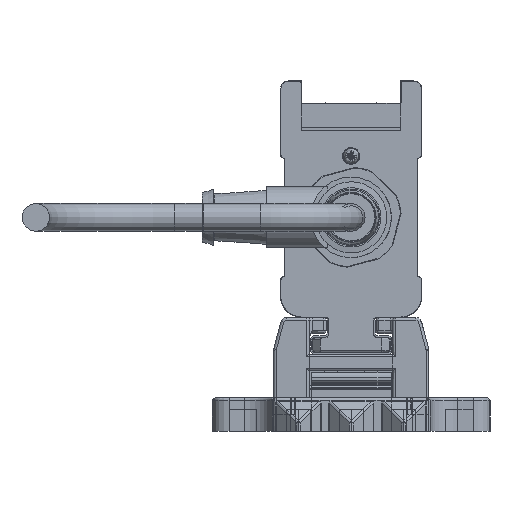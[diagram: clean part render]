
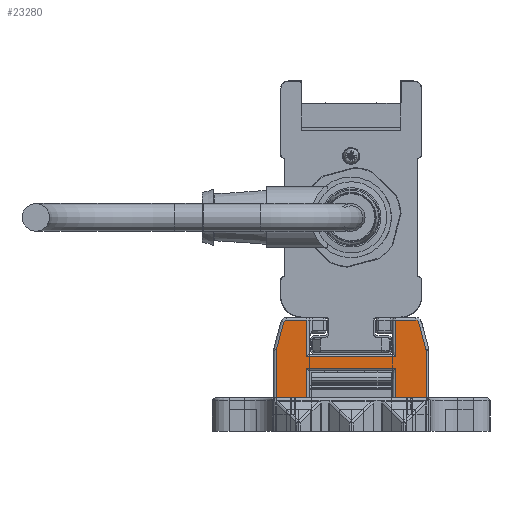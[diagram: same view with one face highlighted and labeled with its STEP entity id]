
A CAD part, left-side view. The second image highlights one B-rep face of the part: STEP entity #23280.
In plain terms, the highlighted planar face has unit normal (-1, 0, 0).
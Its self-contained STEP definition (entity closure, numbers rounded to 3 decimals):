
#23280=ADVANCED_FACE('', (#23290), #23300, .T.);
#141290=AXIS2_PLACEMENT_3D('Ax2Pl3d', #141300, #141310, #141320);
#141530=AXIS2_PLACEMENT_3D('Ax2Pl3d', #141540, #141550, #141560);
#146410=AXIS2_PLACEMENT_3D('Ax2Pl3d', #146420, #146430, #146440);
#151490=AXIS2_PLACEMENT_3D('Ax2Pl3d', #151500, #151510, #151520);
#161170=AXIS2_PLACEMENT_3D('Ax2Pl3d', #161180, #161190, #161200);
#583560=CARTESIAN_POINT('', (-747.669,-3366.345,
331.37));
#141300=CARTESIAN_POINT('HicPkt', (-747.669,-3365.379,
331.111));
#583570=CARTESIAN_POINT('', (-747.669,-3366.379,331.111)
);
#583580=CARTESIAN_POINT('', (-747.669,-3365.037,
336.255));
#583600=CARTESIAN_POINT('', (-747.669,-3365.037,
336.255));
#583630=CARTESIAN_POINT('', (-747.669,-3364.554,
336.625));
#141540=CARTESIAN_POINT('HicPkt', (-747.669,-3364.554,
336.125));
#583850=CARTESIAN_POINT('', (-747.669,-3366.379,322.625)
);
#583860=CARTESIAN_POINT('', (-747.669,-3360.881,322.625)
);
#583870=CARTESIAN_POINT('', (-747.669,-3360.881,322.625)
);
#583950=CARTESIAN_POINT('', (-747.669,-3344.881,322.625)
);
#583960=CARTESIAN_POINT('', (-747.669,-3339.383,322.625)
);
#583970=CARTESIAN_POINT('', (-747.669,-3339.383,322.625)
);
#146420=CARTESIAN_POINT('HicPkt', (-747.669,-3341.209,
336.125));
#586440=CARTESIAN_POINT('', (-747.669,-3340.726,
336.255));
#586450=CARTESIAN_POINT('', (-747.669,-3341.209,336.625)
);
#586460=CARTESIAN_POINT('', (-747.669,-3360.881,
330.025));
#586470=CARTESIAN_POINT('', (-747.669,-3344.881,
330.025));
#586480=CARTESIAN_POINT('', (-747.669,-3360.881,
330.025));
#586640=CARTESIAN_POINT('', (-747.669,-3360.881,
328.005));
#586650=CARTESIAN_POINT('', (-747.669,-3344.881,
328.005));
#586660=CARTESIAN_POINT('', (-747.669,-3344.881,
328.005));
#586670=CARTESIAN_POINT('', (-747.669,-3360.881,
328.005));
#586690=CARTESIAN_POINT('', (-747.669,-3344.881,322.625)
);
#586700=CARTESIAN_POINT('', (-747.669,-3344.881,
330.025));
#586710=CARTESIAN_POINT('', (-747.669,-3344.881,
336.625));
#587560=CARTESIAN_POINT('', (-747.669,-3344.881,
336.625));
#587570=CARTESIAN_POINT('', (-747.669,-3340.726,
336.255));
#587580=CARTESIAN_POINT('', (-747.669,-3339.417,
331.37));
#587770=CARTESIAN_POINT('', (-747.669,-3339.383,
331.111));
#587780=CARTESIAN_POINT('', (-747.669,-3339.383,
331.111));
#151500=CARTESIAN_POINT('HicPkt', (-747.669,-3340.383,
331.111));
#588590=CARTESIAN_POINT('', (-747.669,-3366.379,331.111)
);
#161180=CARTESIAN_POINT('HicPkt', (-747.669,-3364.554,
336.625));
#590390=CARTESIAN_POINT('', (-747.669,-3360.881,
336.625));
#590400=CARTESIAN_POINT('', (-747.669,-3360.881,
336.625));
#590410=CARTESIAN_POINT('', (-747.669,-3360.881,
336.625));
#675070=CIRCLE('Circle', #141290, 1.);
#675110=CIRCLE('Circle', #141530, 0.5);
#675690=CIRCLE('Circle', #146410, 0.5);
#676220=CIRCLE('Circle', #151490, 1.);
#141310=DIRECTION('Axis', (-1.,0.,
0.));
#141320=DIRECTION('RefDirection', (0.,
0.,-1.));
#942570=DIRECTION('', (0.,0.259,
0.966));
#141550=DIRECTION('Axis', (-1.,0.,
0.));
#141560=DIRECTION('RefDirection', (0.,
0.,-1.));
#942680=DIRECTION('', (0.,1.,0.));
#942720=DIRECTION('', (0.,1.,0.));
#146430=DIRECTION('Axis', (1.,0.,
0.));
#146440=DIRECTION('RefDirection', (0.,
0.,-1.));
#943910=DIRECTION('', (0.,-1.,0.));
#944010=DIRECTION('', (0.,1.,0.));
#944020=DIRECTION('', (0.,0.,1.));
#944040=DIRECTION('', (0.,0.,-1.));
#944050=DIRECTION('', (0.,0.,-1.));
#944480=DIRECTION('', (0.,-1.,0.));
#944490=DIRECTION('', (0.,-0.259,0.966));
#944580=DIRECTION('', (0.,0.,1.));
#151510=DIRECTION('Axis', (1.,0.,
0.));
#151520=DIRECTION('RefDirection', (0.,
0.,-1.));
#944950=DIRECTION('', (0.,0.,1.));
#161190=DIRECTION('Axis', (-1.,0.,
0.));
#161200=DIRECTION('RefDirection', (0.,
0.,-1.));
#945790=DIRECTION('', (0.,1.,0.));
#945800=DIRECTION('', (0.,0.,1.));
#1009400=EDGE_CURVE('', #1009410, #1009390, #675070, .T.);
#1009460=EDGE_CURVE('', #1009390, #1009440, #1009470, .T.);
#1009530=EDGE_CURVE('', #1009440, #1009520, #675110, .T.);
#1009980=EDGE_CURVE('', #1009970, #1009990, #1010000, .T.);
#1010140=EDGE_CURVE('', #1010130, #1010150, #1010160, .T.);
#1014500=EDGE_CURVE('', #1014510, #1014520, #675690, .T.);
#1014550=EDGE_CURVE('', #1014560, #1014570, #1014580, .T.);
#1014920=EDGE_CURVE('', #1014900, #1014930, #1014940, .T.);
#1014970=EDGE_CURVE('', #1009990, #1014900, #1014980, .T.);
#1015010=EDGE_CURVE('', #1014930, #1010130, #1015020, .T.);
#1015030=EDGE_CURVE('', #1015040, #1014560, #1015050, .T.);
#1016870=EDGE_CURVE('', #1014520, #1015040, #1016880, .T.);
#1016940=EDGE_CURVE('', #1016950, #1014510, #1016960, .T.);
#1017380=EDGE_CURVE('', #1010150, #1017390, #1017400, .T.);
#1017420=EDGE_CURVE('', #1017390, #1016950, #676220, .T.);
#1019130=EDGE_CURVE('', #1009970, #1009410, #1019140, .T.);
#1022940=EDGE_CURVE('', #1009520, #1022950, #1022960, .T.);
#1022970=EDGE_CURVE('', #1014570, #1022950, #1022980, .T.);
#1216860=EDGE_LOOP('Edge_loop', (#1216870,#1216880,#1216890,#1216900,
#1216910,#1216920,#1216930,#1216940,#1216950,#1216960,#1216970,
#1216980,#1216990,#1217000,#1217010,#1217020,#1217030,#1217040));
#23290=FACE_OUTER_BOUND('Face_outer_bound', #1216860, .T.);
#1009470=LINE('Line', #583600, #1391440);
#1010000=LINE('Line', #583860, #1391550);
#1010160=LINE('Line', #583960, #1391590);
#1014580=LINE('Line', #586460, #1392780);
#1014940=LINE('Line', #586650, #1392880);
#1014980=LINE('Line', #586670, #1392890);
#1015020=LINE('Line', #586690, #1392910);
#1015050=LINE('Line', #586700, #1392920);
#1016880=LINE('Line', #587560, #1393350);
#1016960=LINE('Line', #587570, #1393360);
#1017400=LINE('Line', #587770, #1393450);
#1019140=LINE('Line', #588590, #1393820);
#1022960=LINE('Line', #590390, #1394660);
#1022980=LINE('Line', #590410, #1394670);
#1216870=ORIENTED_EDGE('', *, *, #1022940, .T.);
#1216880=ORIENTED_EDGE('', *, *, #1022970, .F.);
#1216890=ORIENTED_EDGE('', *, *, #1014550, .F.);
#1216900=ORIENTED_EDGE('', *, *, #1015030, .F.);
#1216910=ORIENTED_EDGE('', *, *, #1016870, .F.);
#1216920=ORIENTED_EDGE('', *, *, #1014500, .F.);
#1216930=ORIENTED_EDGE('', *, *, #1016940, .F.);
#1216940=ORIENTED_EDGE('', *, *, #1017420, .F.);
#1216950=ORIENTED_EDGE('', *, *, #1017380, .F.);
#1216960=ORIENTED_EDGE('', *, *, #1010140, .F.);
#1216970=ORIENTED_EDGE('', *, *, #1015010, .F.);
#1216980=ORIENTED_EDGE('', *, *, #1014920, .F.);
#1216990=ORIENTED_EDGE('', *, *, #1014970, .F.);
#1217000=ORIENTED_EDGE('', *, *, #1009980, .F.);
#1217010=ORIENTED_EDGE('', *, *, #1019130, .T.);
#1217020=ORIENTED_EDGE('', *, *, #1009400, .T.);
#1217030=ORIENTED_EDGE('', *, *, #1009460, .T.);
#1217040=ORIENTED_EDGE('', *, *, #1009530, .T.);
#23300=PLANE('Plane', #161170);
#1391440=VECTOR('', #942570, 5.057);
#1391550=VECTOR('', #942680, 5.498);
#1391590=VECTOR('', #942720, 5.498);
#1392780=VECTOR('', #943910, 16.);
#1392880=VECTOR('', #944010, 16.);
#1392890=VECTOR('', #944020, 5.38);
#1392910=VECTOR('', #944040, 5.38);
#1392920=VECTOR('', #944050, 6.6);
#1393350=VECTOR('', #944480, 3.672);
#1393360=VECTOR('', #944490, 5.057);
#1393450=VECTOR('', #944580, 8.486);
#1393820=VECTOR('', #944950, 8.486);
#1394660=VECTOR('', #945790, 3.672);
#1394670=VECTOR('', #945800, 6.6);
#1009390=VERTEX_POINT('', #583560);
#1009410=VERTEX_POINT('', #583570);
#1009440=VERTEX_POINT('', #583580);
#1009520=VERTEX_POINT('', #583630);
#1009970=VERTEX_POINT('', #583850);
#1009990=VERTEX_POINT('', #583870);
#1010130=VERTEX_POINT('', #583950);
#1010150=VERTEX_POINT('', #583970);
#1014510=VERTEX_POINT('', #586440);
#1014520=VERTEX_POINT('', #586450);
#1014560=VERTEX_POINT('', #586470);
#1014570=VERTEX_POINT('', #586480);
#1014900=VERTEX_POINT('', #586640);
#1014930=VERTEX_POINT('', #586660);
#1015040=VERTEX_POINT('', #586710);
#1016950=VERTEX_POINT('', #587580);
#1017390=VERTEX_POINT('', #587780);
#1022950=VERTEX_POINT('', #590400);
